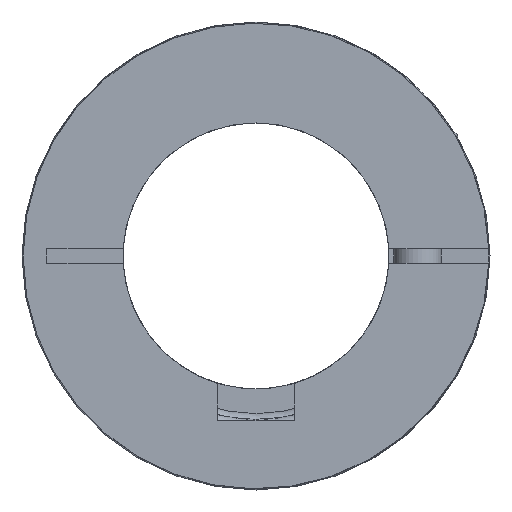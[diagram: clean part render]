
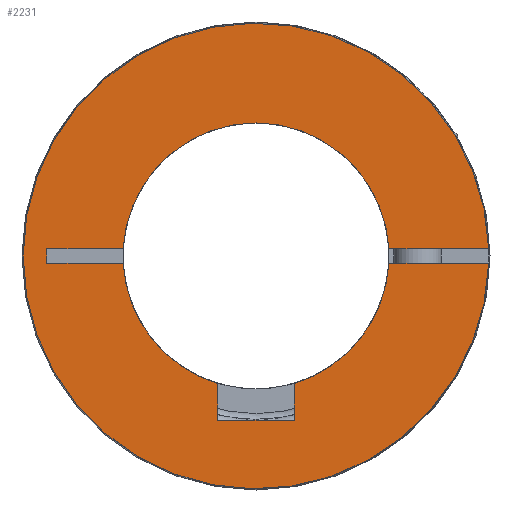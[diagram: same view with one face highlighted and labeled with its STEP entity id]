
A CAD part, left-side view. The second image highlights one B-rep face of the part: STEP entity #2231.
In plain terms, the highlighted planar face has unit normal (-1, 0, 0).
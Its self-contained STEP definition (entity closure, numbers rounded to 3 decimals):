
#80=PLANE('',#2479);
#167=LINE('',#3748,#273);
#170=LINE('',#3754,#276);
#171=LINE('',#3756,#277);
#181=LINE('',#3775,#287);
#184=LINE('',#3785,#290);
#187=LINE('',#3791,#293);
#188=LINE('',#3792,#294);
#189=LINE('',#3794,#295);
#273=VECTOR('',#2954,1.);
#276=VECTOR('',#2959,1.);
#277=VECTOR('',#2962,1.);
#287=VECTOR('',#2980,1000.);
#290=VECTOR('',#2989,1000.);
#293=VECTOR('',#2994,1000.);
#294=VECTOR('',#2995,1000.);
#295=VECTOR('',#2996,1000.);
#407=FACE_OUTER_BOUND('',#542,.T.);
#542=EDGE_LOOP('',(#1652,#1653,#1654,#1655,#1656,#1657,#1658,#1659,#1660,
#1661,#1662,#1663));
#785=CIRCLE('',#2463,14.);
#787=CIRCLE('',#2465,14.);
#788=CIRCLE('',#2467,14.);
#792=CIRCLE('',#2480,24.5);
#997=VERTEX_POINT('',#3721);
#998=VERTEX_POINT('',#3723);
#1001=VERTEX_POINT('',#3729);
#1002=VERTEX_POINT('',#3731);
#1003=VERTEX_POINT('',#3735);
#1004=VERTEX_POINT('',#3736);
#1008=VERTEX_POINT('',#3746);
#1010=VERTEX_POINT('',#3752);
#1015=VERTEX_POINT('',#3774);
#1019=VERTEX_POINT('',#3784);
#1021=VERTEX_POINT('',#3790);
#1022=VERTEX_POINT('',#3793);
#1259=EDGE_CURVE('',#998,#997,#785,.T.);
#1263=EDGE_CURVE('',#1002,#1001,#787,.T.);
#1265=EDGE_CURVE('',#1003,#1004,#788,.T.);
#1271=EDGE_CURVE('',#1001,#1008,#167,.T.);
#1274=EDGE_CURVE('',#1008,#1010,#170,.T.);
#1275=EDGE_CURVE('',#1010,#998,#171,.T.);
#1285=EDGE_CURVE('',#1002,#1015,#181,.T.);
#1290=EDGE_CURVE('',#1019,#1003,#184,.T.);
#1293=EDGE_CURVE('',#1021,#997,#187,.T.);
#1294=EDGE_CURVE('',#1019,#1021,#188,.T.);
#1295=EDGE_CURVE('',#1004,#1022,#189,.T.);
#1296=EDGE_CURVE('',#1022,#1015,#792,.T.);
#1652=ORIENTED_EDGE('',*,*,#1263,.T.);
#1653=ORIENTED_EDGE('',*,*,#1271,.T.);
#1654=ORIENTED_EDGE('',*,*,#1274,.T.);
#1655=ORIENTED_EDGE('',*,*,#1275,.T.);
#1656=ORIENTED_EDGE('',*,*,#1259,.T.);
#1657=ORIENTED_EDGE('',*,*,#1293,.F.);
#1658=ORIENTED_EDGE('',*,*,#1294,.F.);
#1659=ORIENTED_EDGE('',*,*,#1290,.T.);
#1660=ORIENTED_EDGE('',*,*,#1265,.T.);
#1661=ORIENTED_EDGE('',*,*,#1295,.T.);
#1662=ORIENTED_EDGE('',*,*,#1296,.T.);
#1663=ORIENTED_EDGE('',*,*,#1285,.F.);
#2231=ADVANCED_FACE('',(#407),#80,.T.);
#2463=AXIS2_PLACEMENT_3D('',#3724,#2933,#2934);
#2465=AXIS2_PLACEMENT_3D('',#3732,#2939,#2940);
#2467=AXIS2_PLACEMENT_3D('',#3737,#2944,#2945);
#2479=AXIS2_PLACEMENT_3D('',#3789,#2992,#2993);
#2480=AXIS2_PLACEMENT_3D('',#3795,#2997,#2998);
#2933=DIRECTION('center_axis',(1.,0.,0.));
#2934=DIRECTION('ref_axis',(0.,0.,-1.));
#2939=DIRECTION('center_axis',(1.,0.,0.));
#2940=DIRECTION('ref_axis',(0.,0.,-1.));
#2944=DIRECTION('center_axis',(1.,0.,0.));
#2945=DIRECTION('ref_axis',(0.,0.,-1.));
#2954=DIRECTION('',(0.,0.,-1.));
#2959=DIRECTION('',(0.,1.,0.));
#2962=DIRECTION('',(0.,0.,1.));
#2980=DIRECTION('',(0.,-1.,0.));
#2989=DIRECTION('',(0.,-1.,0.));
#2992=DIRECTION('center_axis',(-1.,0.,0.));
#2993=DIRECTION('ref_axis',(0.,1.,0.));
#2994=DIRECTION('',(0.,-1.,0.));
#2995=DIRECTION('',(0.,0.,-1.));
#2996=DIRECTION('',(0.,-1.,0.));
#2997=DIRECTION('center_axis',(-1.,0.,0.));
#2998=DIRECTION('ref_axis',(0.,1.,0.));
#3721=CARTESIAN_POINT('',(0.,13.98,-0.75));
#3723=CARTESIAN_POINT('',(0.,4.,-13.416));
#3724=CARTESIAN_POINT('Origin',(0.,0.,0.));
#3729=CARTESIAN_POINT('',(0.,-4.,-13.416));
#3731=CARTESIAN_POINT('',(0.,-13.98,-0.75));
#3732=CARTESIAN_POINT('Origin',(0.,0.,0.));
#3735=CARTESIAN_POINT('',(0.,13.98,0.75));
#3736=CARTESIAN_POINT('',(0.,-13.98,0.75));
#3737=CARTESIAN_POINT('Origin',(0.,0.,0.));
#3746=CARTESIAN_POINT('',(0.,-4.,-17.3));
#3748=CARTESIAN_POINT('',(0.,-4.,-6.325));
#3752=CARTESIAN_POINT('',(0.,4.,-17.3));
#3754=CARTESIAN_POINT('',(0.,0.,-17.3));
#3756=CARTESIAN_POINT('',(0.,4.,-6.325));
#3774=CARTESIAN_POINT('',(0.,-24.489,-0.75));
#3775=CARTESIAN_POINT('',(0.,22.,-0.75));
#3784=CARTESIAN_POINT('',(0.,22.,0.75));
#3785=CARTESIAN_POINT('',(0.,22.,0.75));
#3789=CARTESIAN_POINT('Origin',(0.,0.,-4.));
#3790=CARTESIAN_POINT('',(0.,22.,-0.75));
#3791=CARTESIAN_POINT('',(0.,22.,-0.75));
#3792=CARTESIAN_POINT('',(0.,22.,0.75));
#3793=CARTESIAN_POINT('',(0.,-24.489,0.75));
#3794=CARTESIAN_POINT('',(0.,22.,0.75));
#3795=CARTESIAN_POINT('Origin',(0.,0.,0.));
